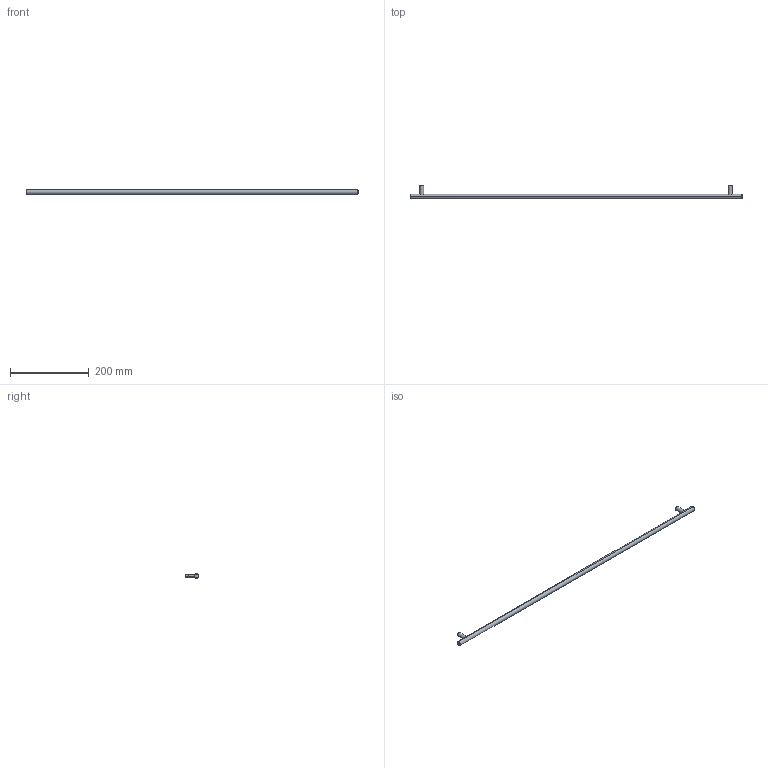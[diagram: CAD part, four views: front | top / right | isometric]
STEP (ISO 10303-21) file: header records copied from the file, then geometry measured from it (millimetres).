
FILE_DESCRIPTION( ( '' ), '1' );
FILE_NAME( 'D:/1.AUTOCAD EXPORT/Group 10/sheet_10_1/DONE/Sachin_1/9070743.stp', '2013-10-29T10:00:02', ( '' ), ( '' ), ' ', ' ', ' ' );
FILE_SCHEMA( ( 'CONFIG_CONTROL_DESIGN' ) );
Length unit declared in the file: millimetre
Products named in the file (1): 1
Bounding box: 844 x 35 x 12 mm (x, y, z)
Volume: 98941.6 mm3; surface area: 33715.8 mm2
Topology: 1 solids, 1 shells, 20 faces, 44 edges, 30 vertices
Faces by surface type: cylinder 10, plane 6, torus 4
Entity records: 738 total; most frequent: CARTESIAN_POINT 229, DIRECTION 108, ORIENTED_EDGE 88, AXIS2_PLACEMENT_3D 49, EDGE_CURVE 44, VERTEX_POINT 30, CIRCLE 28, EDGE_LOOP 24
